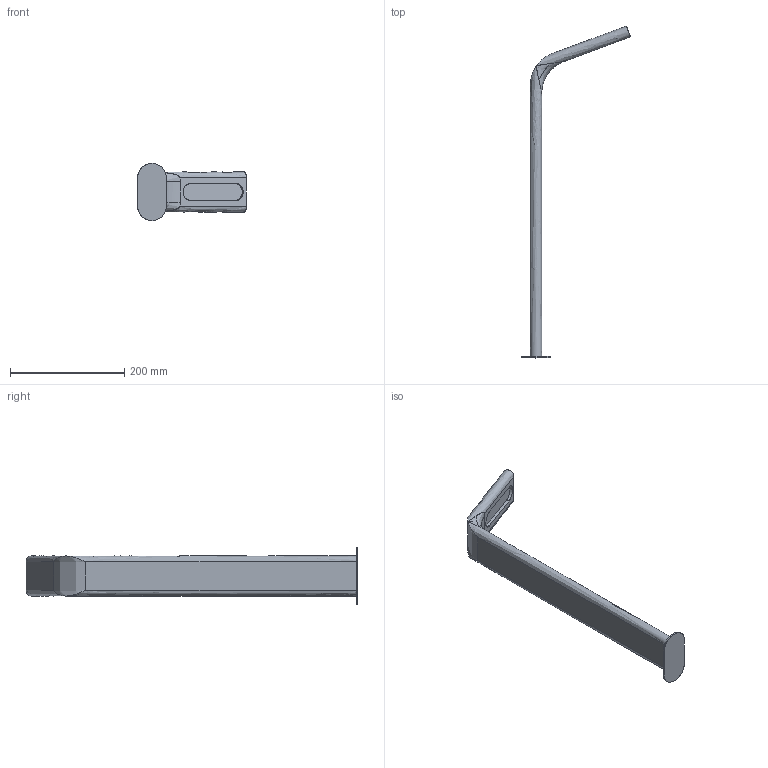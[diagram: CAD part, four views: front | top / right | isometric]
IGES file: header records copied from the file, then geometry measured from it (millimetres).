
Start section: SolidWorks IGES file using analytic representation for surfaces
Global section: file name: C:\Users\danielet\Desktop\3D CARLOS\ZEN-H2038-3D\ZEN-H2038-3D.IGS; native system: SolidWorks 2018; preprocessor: SolidWorks 2018; author: danielet; date: 220125.115717; units: millimetre
Bounding box: 190.1 x 580.56 x 100 mm (x, y, z)
Surface area: 120544 mm2 (no closed solid volume)
Topology: 0 solids, 0 shells, 29 faces, 572 edges, 572 vertices
Faces by surface type: bspline 16, revolution 13
